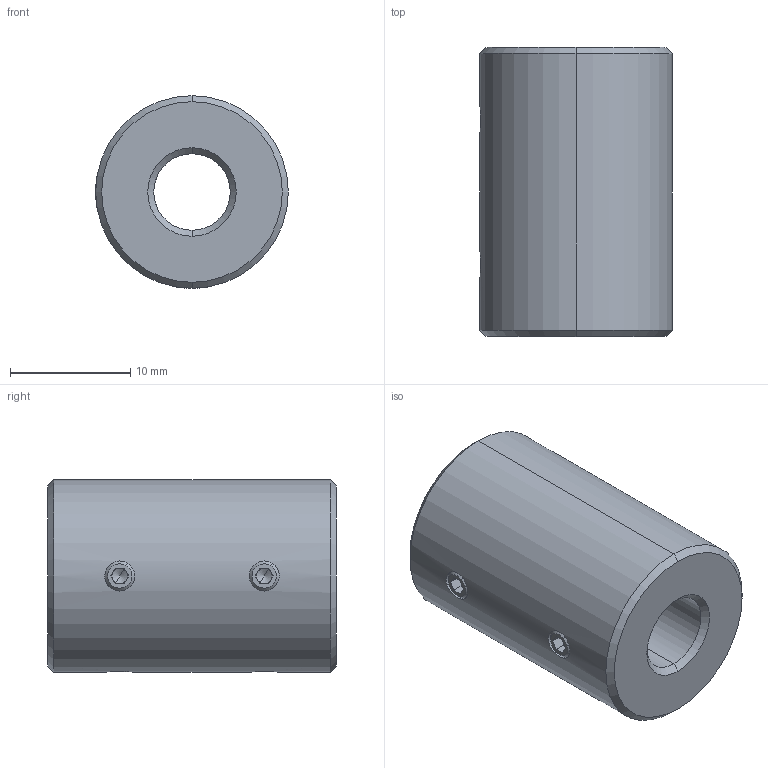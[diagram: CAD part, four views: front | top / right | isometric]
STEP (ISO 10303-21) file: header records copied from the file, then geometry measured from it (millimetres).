
FILE_DESCRIPTION (( 'STEP AP214' ), '1' );
FILE_NAME ('LL-D-D16L24-6.35-8.STEP', '2022-07-23T07:05:42', ( '' ), ( '' ), 'SwSTEP 2.0', 'SolidWorks 2022', '' );
FILE_SCHEMA (( 'AUTOMOTIVE_DESIGN' ));
Length unit declared in the file: millimetre
Products named in the file (1): LL-D-D16L24-6.35-8
Bounding box: 16 x 24 x 16 mm (x, y, z)
Volume: 3803.4 mm3; surface area: 2111.9 mm2
Topology: 1 solids, 1 shells, 113 faces, 286 edges, 176 vertices
Faces by surface type: plane 59, cone 32, cylinder 22
Entity records: 3642 total; most frequent: CARTESIAN_POINT 892, DIRECTION 582, ORIENTED_EDGE 556, EDGE_CURVE 278, AXIS2_PLACEMENT_3D 214, VERTEX_POINT 176, LINE 154, VECTOR 154
